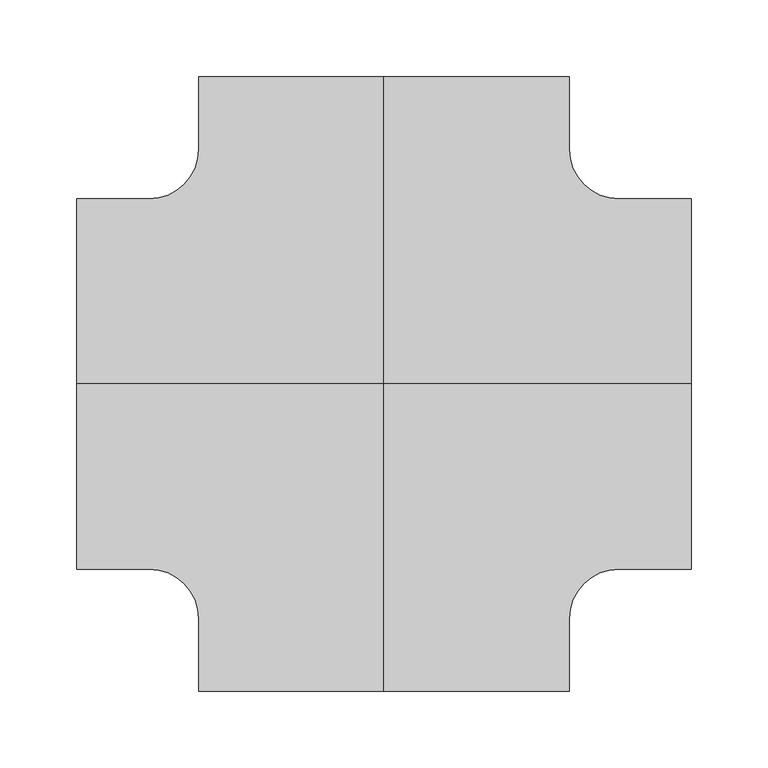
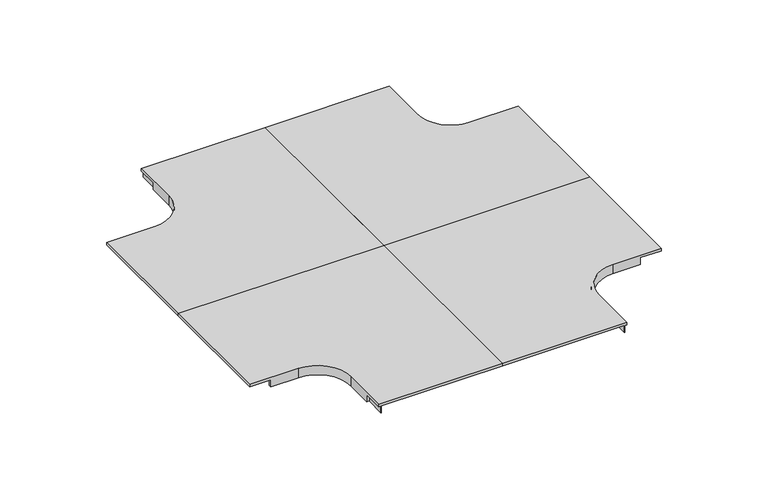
"""IFC4 building model written with IfcOpenShell, lengths in millimetres: cable carrier fitting geometry, CCT_Hyperline_FBTR-CRS-CVR_Крышка на ответвитель крестообразный пластиковый : Крышка на ответвитель крестообразный пластиковый."""

from ifc_helpers import new_model, si_unit, frame, origin, place, context, project, spatial, polyline, circle_curve, source, transform, mapped, element, save
from ifc_brep_helpers import plane_surface, cylinder_surface, revolved_surface, advanced_brep


def cable_carrier_fitting_1af7177d(model_context):
    return source(origin(), model_context, "Body", "AdvancedBrep", [
        advanced_brep(
        [(200.0, -120.54, 52.54), (200.0, -120.54, 50.0), (200.0, 0.0, 50.0), (200.0, 0.0, 52.54), (153.0, -118.0, 50.0), (179.6504105, -118.0, 50.0), (179.6504105, -118.0, 43.0), (153.0, -118.0, 43.0), (179.6504105, -120.54, 43.0), (153.0, -120.54, 43.0), (120.54, -153.0, 43.0), (120.54, -180.0, 43.0), (118.46, -180.0, 43.0), (118.46, -200.0, 43.0), (118.0, -200.0, 43.0), (118.0, -153.0, 43.0), (153.0, -120.54, 52.54), (179.6504105, -120.54, 50.0), (118.0, -153.0, 50.0), (120.54, -153.0, 52.54), (0.0, -200.0, 52.54), (0.0, -200.0, 50.0), (118.0, -200.0, 50.0), (118.46, -200.0, 50.0), (120.54, -200.0, 50.0), (120.54, -200.0, 52.54), (120.54, -180.0, 50.0), (0.0, 0.0, 52.54), (0.0, 0.0, 50.0), (118.46, -180.0, 50.0)],
        [
            (0, 1),
            (1, 2),
            (2, 3),
            (3, 0),
            (4, 5),
            (5, 6),
            (6, 7),
            (7, 4),
            (6, 8),
            (8, 9),
            (9, 10, circle_curve(frame((153.0, -153.0, 43.0), z_axis=(0.0, 0.0, 1.0), x_axis=(0.0, 1.0, 0.0)), 32.46)),
            (10, 11),
            (11, 12),
            (12, 13),
            (13, 14),
            (14, 15),
            (15, 7, circle_curve(frame((153.0, -153.0, 43.0), z_axis=(0.0, 0.0, -1.0), x_axis=(0.0, 1.0, 0.0)), 35.0)),
            (16, 9),
            (8, 17),
            (17, 1),
            (0, 16),
            (15, 18),
            (18, 4, circle_curve(frame((153.0, -153.0, 50.0), z_axis=(0.0, 0.0, -1.0), x_axis=(0.0, 1.0, 0.0)), 35.0)),
            (19, 10),
            (16, 19, circle_curve(frame((153.0, -153.0, 52.54), z_axis=(0.0, 0.0, 1.0), x_axis=(0.0, 1.0, 0.0)), 32.46)),
            (20, 21),
            (21, 22),
            (22, 14),
            (13, 23),
            (23, 24),
            (24, 25),
            (25, 20),
            (22, 18),
            (24, 26),
            (26, 11),
            (19, 25),
            (3, 27),
            (27, 20),
            (2, 28),
            (28, 27),
            (17, 5),
            (21, 28),
            (26, 29),
            (29, 12),
            (29, 23),
        ],
        [
            plane_surface(frame((200.0, -118.0, 25.0), z_axis=(1.0, 0.0, 0.0), x_axis=(0.0, 0.0, 1.0))),
            plane_surface(frame((200.0, -118.0, 50.0), z_axis=(0.0, 1.0, 0.0), x_axis=(-1.0, 0.0, 0.0))),
            plane_surface(frame((200.0, -118.0, 43.0), z_axis=(0.0, 0.0, -1.0), x_axis=(-1.0, 0.0, 0.0))),
            plane_surface(frame((200.0, -120.54, 43.0), z_axis=(0.0, -1.0, 0.0), x_axis=(-1.0, 0.0, 0.0))),
            cylinder_surface(frame((153.0, -153.0, 25.0), z_axis=(0.0, 0.0, -1.0), x_axis=(0.0, 1.0, 0.0)), 35.0),
            revolved_surface(polyline([(153.0, -120.53999999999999, 43.0), (153.0, -120.53999999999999, 52.54)]), (153.0, -153.0, 25.0), (0.0, 0.0, -1.0)),
            plane_surface(frame((118.0, -200.0, 25.0), z_axis=(0.0, -1.0, 0.0), x_axis=(0.0, 0.0, 1.0))),
            plane_surface(frame((118.0, -153.0, 50.0), z_axis=(-1.0, 0.0, 0.0), x_axis=(0.0, -1.0, 0.0))),
            plane_surface(frame((120.54, -153.0, 43.0), z_axis=(1.0, 0.0, 0.0), x_axis=(0.0, -1.0, 0.0))),
            plane_surface(frame((200.0, -120.54, 52.54), z_axis=(0.0, 0.0, 1.0), x_axis=(-1.0, 0.0, 0.0))),
            plane_surface(frame((200.0, 0.0, 52.54), z_axis=(0.0, 1.0, 0.0), x_axis=(-1.0, 0.0, 0.0))),
            plane_surface(frame((200.0, 0.0, 50.0), z_axis=(0.0, 0.0, -1.0), x_axis=(-1.0, 0.0, 0.0))),
            plane_surface(frame((0.0, -153.0, 52.54), z_axis=(-1.0, 0.0, 0.0), x_axis=(0.0, -1.0, 0.0))),
            plane_surface(frame((179.6504105, -120.54, 43.0), z_axis=(1.0, 0.0, 0.0), x_axis=(0.0, 1.0, 0.0))),
            plane_surface(frame((118.46, -180.0, 43.0), z_axis=(0.0, -1.0, 0.0), x_axis=(1.0, 0.0, 0.0))),
            plane_surface(frame((118.46, -200.0, 50.0), z_axis=(1.0, 0.0, 0.0), x_axis=(0.0, -1.0, 0.0))),
            plane_surface(frame((118.46, -180.0, 50.0), z_axis=(0.0, 0.0, -1.0), x_axis=(1.0, 0.0, 0.0))),
        ],
        [
            (0, [[1, 2, 3, 4]]),
            (1, [[5, 6, 7, 8]]),
            (2, [[-7, 9, 10, 11, 12, 13, 14, 15, 16, 17]]),
            (3, [[18, -10, 19, 20, -1, 21]]),
            (4, [[-8, -17, 22, 23]]),
            (5, [[24, -11, -18, 25]]),
            (6, [[26, 27, 28, -15, 29, 30, 31, 32]]),
            (7, [[-22, -16, -28, 33]]),
            (8, [[-31, 34, 35, -12, -24, 36]]),
            (9, [[37, 38, -32, -36, -25, -21, -4]]),
            (10, [[39, 40, -37, -3]]),
            (11, [[-2, -20, 41, -5, -23, -33, -27, 42, -39]]),
            (12, [[-40, -42, -26, -38]]),
            (13, [[-19, -9, -6, -41]]),
            (14, [[-13, -35, 43, 44]]),
            (15, [[45, -29, -14, -44]]),
            (16, [[-43, -34, -30, -45]]),
        ],
    ),
        advanced_brep(
        [(200.0, 120.54, 52.54), (200.0, 0.0, 52.54), (200.0, 0.0, 50.0), (200.0, 120.54, 50.0), (153.0, 118.0, 50.0), (153.0, 118.0, 43.0), (179.6504105, 118.0, 43.0), (179.6504105, 118.0, 50.0), (118.0, 153.0, 43.0), (118.0, 200.0, 43.0), (118.46, 200.0, 43.0), (118.46, 180.0, 43.0), (120.54, 180.0, 43.0), (120.54, 153.0, 43.0), (153.0, 120.54, 43.0), (179.6504105, 120.54, 43.0), (153.0, 120.54, 52.54), (179.6504105, 120.54, 50.0), (118.0, 153.0, 50.0), (120.54, 153.0, 52.54), (0.0, 200.0, 52.54), (120.54, 200.0, 52.54), (120.54, 200.0, 50.0), (118.46, 200.0, 50.0), (118.0, 200.0, 50.0), (0.0, 200.0, 50.0), (120.54, 180.0, 50.0), (0.0, 0.0, 52.54), (0.0, 0.0, 50.0), (118.46, 180.0, 50.0)],
        [
            (0, 1),
            (1, 2),
            (2, 3),
            (3, 0),
            (4, 5),
            (5, 6),
            (6, 7),
            (7, 4),
            (5, 8, circle_curve(frame((153.0, 153.0, 43.0), z_axis=(0.0, 0.0, -1.0), x_axis=(0.0, -1.0, 0.0)), 35.0)),
            (8, 9),
            (9, 10),
            (10, 11),
            (11, 12),
            (12, 13),
            (13, 14, circle_curve(frame((153.0, 153.0, 43.0), z_axis=(0.0, 0.0, 1.0), x_axis=(0.0, -1.0, 0.0)), 32.46)),
            (14, 15),
            (15, 6),
            (16, 0),
            (3, 17),
            (17, 15),
            (14, 16),
            (4, 18, circle_curve(frame((153.0, 153.0, 50.0), z_axis=(0.0, 0.0, -1.0), x_axis=(0.0, -1.0, 0.0)), 35.0)),
            (18, 8),
            (19, 16, circle_curve(frame((153.0, 153.0, 52.54), z_axis=(0.0, 0.0, 1.0), x_axis=(0.0, -1.0, 0.0)), 32.46)),
            (13, 19),
            (20, 21),
            (21, 22),
            (22, 23),
            (23, 10),
            (9, 24),
            (24, 25),
            (25, 20),
            (18, 24),
            (21, 19),
            (12, 26),
            (26, 22),
            (20, 27),
            (27, 1),
            (27, 28),
            (28, 2),
            (28, 25),
            (7, 17),
            (11, 29),
            (29, 26),
            (23, 29),
        ],
        [
            plane_surface(frame((200.0, 118.0, 25.0), z_axis=(1.0, 0.0, 0.0), x_axis=(0.0, 0.0, 1.0))),
            plane_surface(frame((200.0, 118.0, 50.0), z_axis=(0.0, -1.0, 0.0), x_axis=(-1.0, 0.0, 0.0))),
            plane_surface(frame((200.0, 118.0, 43.0), z_axis=(0.0, 0.0, -1.0), x_axis=(-1.0, 0.0, 0.0))),
            plane_surface(frame((200.0, 120.54, 43.0), z_axis=(0.0, 1.0, 0.0), x_axis=(-1.0, 0.0, 0.0))),
            cylinder_surface(frame((153.0, 153.0, 25.0), z_axis=(0.0, 0.0, -1.0), x_axis=(0.0, -1.0, 0.0)), 35.0),
            revolved_surface(polyline([(153.0, 120.53999999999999, 43.0), (153.0, 120.53999999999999, 52.54)]), (153.0, 153.0, 25.0), (0.0, 0.0, -1.0)),
            plane_surface(frame((118.0, 200.0, 25.0), z_axis=(0.0, 1.0, 0.0), x_axis=(0.0, 0.0, 1.0))),
            plane_surface(frame((118.0, 153.0, 50.0), z_axis=(-1.0, 0.0, 0.0), x_axis=(0.0, 1.0, 0.0))),
            plane_surface(frame((120.54, 153.0, 43.0), z_axis=(1.0, 0.0, 0.0), x_axis=(0.0, 1.0, 0.0))),
            plane_surface(frame((200.0, 120.54, 52.54), z_axis=(0.0, 0.0, 1.0), x_axis=(-1.0, 0.0, 0.0))),
            plane_surface(frame((200.0, 0.0, 52.54), z_axis=(0.0, -1.0, 0.0), x_axis=(-1.0, 0.0, 0.0))),
            plane_surface(frame((200.0, 0.0, 50.0), z_axis=(0.0, 0.0, -1.0), x_axis=(-1.0, 0.0, 0.0))),
            plane_surface(frame((0.0, 153.0, 52.54), z_axis=(-1.0, 0.0, 0.0), x_axis=(0.0, 1.0, 0.0))),
            plane_surface(frame((179.6504105, 120.54, 43.0), z_axis=(1.0, 0.0, 0.0), x_axis=(0.0, -1.0, 0.0))),
            plane_surface(frame((118.46, 180.0, 43.0), z_axis=(0.0, 1.0, 0.0), x_axis=(1.0, 0.0, 0.0))),
            plane_surface(frame((118.46, 200.0, 50.0), z_axis=(1.0, 0.0, 0.0), x_axis=(0.0, 1.0, 0.0))),
            plane_surface(frame((118.46, 180.0, 50.0), z_axis=(0.0, 0.0, -1.0), x_axis=(1.0, 0.0, 0.0))),
        ],
        [
            (0, [[1, 2, 3, 4]]),
            (1, [[5, 6, 7, 8]]),
            (2, [[9, 10, 11, 12, 13, 14, 15, 16, 17, -6]]),
            (3, [[18, -4, 19, 20, -16, 21]]),
            (4, [[22, 23, -9, -5]]),
            (5, [[24, -21, -15, 25]]),
            (6, [[26, 27, 28, 29, -11, 30, 31, 32]]),
            (7, [[33, -30, -10, -23]]),
            (8, [[34, -25, -14, 35, 36, -27]]),
            (9, [[-1, -18, -24, -34, -26, 37, 38]]),
            (10, [[-2, -38, 39, 40]]),
            (11, [[-40, 41, -31, -33, -22, -8, 42, -19, -3]]),
            (12, [[-37, -32, -41, -39]]),
            (13, [[-42, -7, -17, -20]]),
            (14, [[43, 44, -35, -13]]),
            (15, [[-43, -12, -29, 45]]),
            (16, [[-45, -28, -36, -44]]),
        ],
    ),
        advanced_brep(
        [(-200.0, -120.54, 52.54), (-200.0, 0.0, 52.54), (-200.0, 0.0, 50.0), (-200.0, -120.54, 50.0), (-153.0, -118.0, 50.0), (-153.0, -118.0, 43.0), (-179.6504105, -118.0, 43.0), (-179.6504105, -118.0, 50.0), (-118.0, -153.0, 43.0), (-118.0, -200.0, 43.0), (-118.46, -200.0, 43.0), (-118.46, -180.0, 43.0), (-120.54, -180.0, 43.0), (-120.54, -153.0, 43.0), (-153.0, -120.54, 43.0), (-179.6504105, -120.54, 43.0), (-153.0, -120.54, 52.54), (-179.6504105, -120.54, 50.0), (-118.0, -153.0, 50.0), (-120.54, -153.0, 52.54), (0.0, -200.0, 52.54), (-120.54, -200.0, 52.54), (-120.54, -200.0, 50.0), (-118.46, -200.0, 50.0), (-118.0, -200.0, 50.0), (0.0, -200.0, 50.0), (-120.54, -180.0, 50.0), (0.0, 0.0, 52.54), (0.0, 0.0, 50.0), (-118.46, -180.0, 50.0)],
        [
            (0, 1),
            (1, 2),
            (2, 3),
            (3, 0),
            (4, 5),
            (5, 6),
            (6, 7),
            (7, 4),
            (5, 8, circle_curve(frame((-153.0, -153.0, 43.0), z_axis=(0.0, 0.0, -1.0), x_axis=(0.0, 1.0, 0.0)), 35.0)),
            (8, 9),
            (9, 10),
            (10, 11),
            (11, 12),
            (12, 13),
            (13, 14, circle_curve(frame((-153.0, -153.0, 43.0), z_axis=(0.0, 0.0, 1.0), x_axis=(0.0, 1.0, 0.0)), 32.46)),
            (14, 15),
            (15, 6),
            (16, 0),
            (3, 17),
            (17, 15),
            (14, 16),
            (4, 18, circle_curve(frame((-153.0, -153.0, 50.0), z_axis=(0.0, 0.0, -1.0), x_axis=(0.0, 1.0, 0.0)), 35.0)),
            (18, 8),
            (19, 16, circle_curve(frame((-153.0, -153.0, 52.54), z_axis=(0.0, 0.0, 1.0), x_axis=(0.0, 1.0, 0.0)), 32.46)),
            (13, 19),
            (20, 21),
            (21, 22),
            (22, 23),
            (23, 10),
            (9, 24),
            (24, 25),
            (25, 20),
            (18, 24),
            (21, 19),
            (12, 26),
            (26, 22),
            (20, 27),
            (27, 1),
            (27, 28),
            (28, 2),
            (28, 25),
            (7, 17),
            (11, 29),
            (29, 26),
            (23, 29),
        ],
        [
            plane_surface(frame((-200.0, -118.0, 25.0), z_axis=(-1.0, 0.0, 0.0), x_axis=(0.0, 0.0, 1.0))),
            plane_surface(frame((-200.0, -118.0, 50.0), z_axis=(0.0, 1.0, 0.0), x_axis=(1.0, 0.0, 0.0))),
            plane_surface(frame((-200.0, -118.0, 43.0), z_axis=(0.0, 0.0, -1.0), x_axis=(1.0, 0.0, 0.0))),
            plane_surface(frame((-200.0, -120.54, 43.0), z_axis=(0.0, -1.0, 0.0), x_axis=(1.0, 0.0, 0.0))),
            cylinder_surface(frame((-153.0, -153.0, 25.0), z_axis=(0.0, 0.0, -1.0), x_axis=(0.0, 1.0, 0.0)), 35.0),
            revolved_surface(polyline([(-153.0, -120.53999999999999, 43.0), (-153.0, -120.53999999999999, 52.54)]), (-153.0, -153.0, 25.0), (0.0, 0.0, -1.0)),
            plane_surface(frame((-118.0, -200.0, 25.0), z_axis=(0.0, -1.0, 0.0), x_axis=(0.0, 0.0, 1.0))),
            plane_surface(frame((-118.0, -153.0, 50.0), z_axis=(1.0, 0.0, 0.0), x_axis=(0.0, -1.0, 0.0))),
            plane_surface(frame((-120.54, -153.0, 43.0), z_axis=(-1.0, 0.0, 0.0), x_axis=(0.0, -1.0, 0.0))),
            plane_surface(frame((-200.0, -120.54, 52.54), z_axis=(0.0, 0.0, 1.0), x_axis=(1.0, 0.0, 0.0))),
            plane_surface(frame((-200.0, 0.0, 52.54), z_axis=(0.0, 1.0, 0.0), x_axis=(1.0, 0.0, 0.0))),
            plane_surface(frame((-200.0, 0.0, 50.0), z_axis=(0.0, 0.0, -1.0), x_axis=(1.0, 0.0, 0.0))),
            plane_surface(frame((0.0, -153.0, 52.54), z_axis=(1.0, 0.0, 0.0), x_axis=(0.0, -1.0, 0.0))),
            plane_surface(frame((-179.6504105, -120.54, 43.0), z_axis=(-1.0, 0.0, 0.0), x_axis=(0.0, 1.0, 0.0))),
            plane_surface(frame((-118.46, -180.0, 43.0), z_axis=(0.0, -1.0, 0.0), x_axis=(-1.0, 0.0, 0.0))),
            plane_surface(frame((-118.46, -200.0, 50.0), z_axis=(-1.0, 0.0, 0.0), x_axis=(0.0, -1.0, 0.0))),
            plane_surface(frame((-118.46, -180.0, 50.0), z_axis=(0.0, 0.0, -1.0), x_axis=(-1.0, 0.0, 0.0))),
        ],
        [
            (0, [[1, 2, 3, 4]]),
            (1, [[5, 6, 7, 8]]),
            (2, [[9, 10, 11, 12, 13, 14, 15, 16, 17, -6]]),
            (3, [[18, -4, 19, 20, -16, 21]]),
            (4, [[22, 23, -9, -5]]),
            (5, [[24, -21, -15, 25]]),
            (6, [[26, 27, 28, 29, -11, 30, 31, 32]]),
            (7, [[33, -30, -10, -23]]),
            (8, [[34, -25, -14, 35, 36, -27]]),
            (9, [[-1, -18, -24, -34, -26, 37, 38]]),
            (10, [[-2, -38, 39, 40]]),
            (11, [[-40, 41, -31, -33, -22, -8, 42, -19, -3]]),
            (12, [[-37, -32, -41, -39]]),
            (13, [[-42, -7, -17, -20]]),
            (14, [[43, 44, -35, -13]]),
            (15, [[-43, -12, -29, 45]]),
            (16, [[-45, -28, -36, -44]]),
        ],
    ),
        advanced_brep(
        [(-200.0, 120.54, 52.54), (-200.0, 120.54, 50.0), (-200.0, 0.0, 50.0), (-200.0, 0.0, 52.54), (-153.0, 118.0, 50.0), (-179.6504105, 118.0, 50.0), (-179.6504105, 118.0, 43.0), (-153.0, 118.0, 43.0), (-179.6504105, 120.54, 43.0), (-153.0, 120.54, 43.0), (-120.54, 153.0, 43.0), (-120.54, 180.0, 43.0), (-118.46, 180.0, 43.0), (-118.46, 200.0, 43.0), (-118.0, 200.0, 43.0), (-118.0, 153.0, 43.0), (-153.0, 120.54, 52.54), (-179.6504105, 120.54, 50.0), (-118.0, 153.0, 50.0), (-120.54, 153.0, 52.54), (0.0, 200.0, 52.54), (0.0, 200.0, 50.0), (-118.0, 200.0, 50.0), (-118.46, 200.0, 50.0), (-120.54, 200.0, 50.0), (-120.54, 200.0, 52.54), (-120.54, 180.0, 50.0), (0.0, 0.0, 52.54), (0.0, 0.0, 50.0), (-118.46, 180.0, 50.0)],
        [
            (0, 1),
            (1, 2),
            (2, 3),
            (3, 0),
            (4, 5),
            (5, 6),
            (6, 7),
            (7, 4),
            (6, 8),
            (8, 9),
            (9, 10, circle_curve(frame((-153.0, 153.0, 43.0), z_axis=(0.0, 0.0, 1.0), x_axis=(0.0, -1.0, 0.0)), 32.46)),
            (10, 11),
            (11, 12),
            (12, 13),
            (13, 14),
            (14, 15),
            (15, 7, circle_curve(frame((-153.0, 153.0, 43.0), z_axis=(0.0, 0.0, -1.0), x_axis=(0.0, -1.0, 0.0)), 35.0)),
            (16, 9),
            (8, 17),
            (17, 1),
            (0, 16),
            (15, 18),
            (18, 4, circle_curve(frame((-153.0, 153.0, 50.0), z_axis=(0.0, 0.0, -1.0), x_axis=(0.0, -1.0, 0.0)), 35.0)),
            (19, 10),
            (16, 19, circle_curve(frame((-153.0, 153.0, 52.54), z_axis=(0.0, 0.0, 1.0), x_axis=(0.0, -1.0, 0.0)), 32.46)),
            (20, 21),
            (21, 22),
            (22, 14),
            (13, 23),
            (23, 24),
            (24, 25),
            (25, 20),
            (22, 18),
            (24, 26),
            (26, 11),
            (19, 25),
            (3, 27),
            (27, 20),
            (2, 28),
            (28, 27),
            (17, 5),
            (21, 28),
            (26, 29),
            (29, 12),
            (29, 23),
        ],
        [
            plane_surface(frame((-200.0, 118.0, 25.0), z_axis=(-1.0, 0.0, 0.0), x_axis=(0.0, 0.0, 1.0))),
            plane_surface(frame((-200.0, 118.0, 50.0), z_axis=(0.0, -1.0, 0.0), x_axis=(1.0, 0.0, 0.0))),
            plane_surface(frame((-200.0, 118.0, 43.0), z_axis=(0.0, 0.0, -1.0), x_axis=(1.0, 0.0, 0.0))),
            plane_surface(frame((-200.0, 120.54, 43.0), z_axis=(0.0, 1.0, 0.0), x_axis=(1.0, 0.0, 0.0))),
            cylinder_surface(frame((-153.0, 153.0, 25.0), z_axis=(0.0, 0.0, -1.0), x_axis=(0.0, -1.0, 0.0)), 35.0),
            revolved_surface(polyline([(-153.0, 120.53999999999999, 43.0), (-153.0, 120.53999999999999, 52.54)]), (-153.0, 153.0, 25.0), (0.0, 0.0, -1.0)),
            plane_surface(frame((-118.0, 200.0, 25.0), z_axis=(0.0, 1.0, 0.0), x_axis=(0.0, 0.0, 1.0))),
            plane_surface(frame((-118.0, 153.0, 50.0), z_axis=(1.0, 0.0, 0.0), x_axis=(0.0, 1.0, 0.0))),
            plane_surface(frame((-120.54, 153.0, 43.0), z_axis=(-1.0, 0.0, 0.0), x_axis=(0.0, 1.0, 0.0))),
            plane_surface(frame((-200.0, 120.54, 52.54), z_axis=(0.0, 0.0, 1.0), x_axis=(1.0, 0.0, 0.0))),
            plane_surface(frame((-200.0, 0.0, 52.54), z_axis=(0.0, -1.0, 0.0), x_axis=(1.0, 0.0, 0.0))),
            plane_surface(frame((-200.0, 0.0, 50.0), z_axis=(0.0, 0.0, -1.0), x_axis=(1.0, 0.0, 0.0))),
            plane_surface(frame((0.0, 153.0, 52.54), z_axis=(1.0, 0.0, 0.0), x_axis=(0.0, 1.0, 0.0))),
            plane_surface(frame((-179.6504105, 120.54, 43.0), z_axis=(-1.0, 0.0, 0.0), x_axis=(0.0, -1.0, 0.0))),
            plane_surface(frame((-118.46, 180.0, 43.0), z_axis=(0.0, 1.0, 0.0), x_axis=(-1.0, 0.0, 0.0))),
            plane_surface(frame((-118.46, 200.0, 50.0), z_axis=(-1.0, 0.0, 0.0), x_axis=(0.0, 1.0, 0.0))),
            plane_surface(frame((-118.46, 180.0, 50.0), z_axis=(0.0, 0.0, -1.0), x_axis=(-1.0, 0.0, 0.0))),
        ],
        [
            (0, [[1, 2, 3, 4]]),
            (1, [[5, 6, 7, 8]]),
            (2, [[-7, 9, 10, 11, 12, 13, 14, 15, 16, 17]]),
            (3, [[18, -10, 19, 20, -1, 21]]),
            (4, [[-8, -17, 22, 23]]),
            (5, [[24, -11, -18, 25]]),
            (6, [[26, 27, 28, -15, 29, 30, 31, 32]]),
            (7, [[-22, -16, -28, 33]]),
            (8, [[-31, 34, 35, -12, -24, 36]]),
            (9, [[37, 38, -32, -36, -25, -21, -4]]),
            (10, [[39, 40, -37, -3]]),
            (11, [[-2, -20, 41, -5, -23, -33, -27, 42, -39]]),
            (12, [[-40, -42, -26, -38]]),
            (13, [[-19, -9, -6, -41]]),
            (14, [[-13, -35, 43, 44]]),
            (15, [[45, -29, -14, -44]]),
            (16, [[-43, -34, -30, -45]]),
        ],
    ),
    ])


if __name__ == "__main__":
    model = new_model("IFC4")
    model_context = context("Model", 3, world=origin())
    ifc_project = project(units=[si_unit("LENGTHUNIT", "METRE", prefix="MILLI")], contexts=[model_context])
    site = spatial("IfcSite", under=ifc_project)
    building = spatial("IfcBuilding", under=site)
    placement = place(None, origin())
    cable_carrier_fitting_shape = cable_carrier_fitting_1af7177d(model_context)
    element("IfcCableCarrierFitting", 1, ObjectType="CCT_Hyperline_FBTR-CRS-CVR_Крышка на ответвитель крестообразный пластиковый : Крышка на ответвитель крестообразный пластиковый", at=placement, inside=building, context=model_context, shape_type="MappedRepresentation", body=[
        mapped(cable_carrier_fitting_shape, transform((0.0, 0.0, 0.0), x_axis=(1.0, 0.0, 0.0), y_axis=(0.0, 1.0, 0.0), z_axis=(0.0, 0.0, 1.0))),
    ])
    save(model, "model.ifc")
